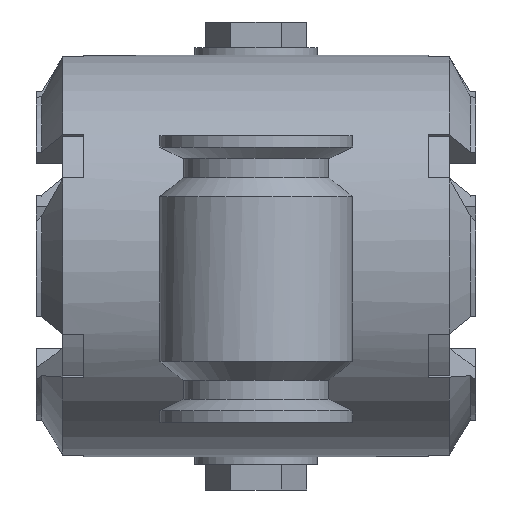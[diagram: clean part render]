
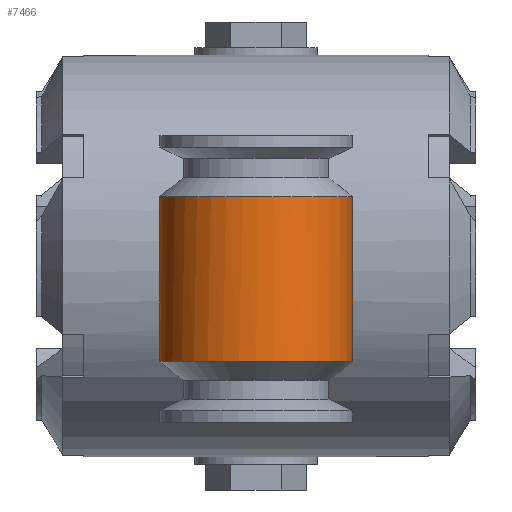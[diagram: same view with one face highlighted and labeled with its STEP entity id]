
A CAD part, front view. The second image highlights one B-rep face of the part: STEP entity #7466.
In plain terms, the highlighted cylindrical face has radius 25.25 mm (diameter 50.5 mm), a full revolution.
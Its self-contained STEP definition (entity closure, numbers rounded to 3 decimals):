
#737=CIRCLE('',#26787,25.25);
#738=CIRCLE('',#26788,25.25);
#739=CIRCLE('',#26790,25.25);
#5937=CYLINDRICAL_SURFACE('',#26791,25.25);
#6121=FACE_BOUND('',#10915,.T.);
#6122=FACE_BOUND('',#10916,.T.);
#7466=ADVANCED_FACE('',(#6121,#6122),#5937,.T.);
#10915=EDGE_LOOP('',(#18058));
#10916=EDGE_LOOP('',(#18059,#18060,#18061));
#18058=ORIENTED_EDGE('',*,*,#24138,.T.);
#18059=ORIENTED_EDGE('',*,*,#24137,.T.);
#18060=ORIENTED_EDGE('',*,*,#24139,.T.);
#18061=ORIENTED_EDGE('',*,*,#24135,.T.);
#20547=VERTEX_POINT('',#44036);
#20548=VERTEX_POINT('',#44037);
#20549=VERTEX_POINT('',#44042);
#20550=VERTEX_POINT('',#44046);
#24135=EDGE_CURVE('',#20547,#20548,#737,.T.);
#24137=EDGE_CURVE('',#20548,#20549,#738,.T.);
#24138=EDGE_CURVE('',#20550,#20550,#739,.T.);
#24139=EDGE_CURVE('',#20549,#20547,#25798,.T.);
#25798=B_SPLINE_CURVE_WITH_KNOTS('',3,(#44047,#44048,#44049,#44050,#44051,
#44052,#44053,#44054,#44055,#44056,#44057,#44058,#44059,#44060,#44061,#44062,
#44063,#44064,#44065,#44066,#44067,#44068,#44069,#44070,#44071,#44072,#44073,
#44074),.UNSPECIFIED.,.F.,.F.,(4,2,2,2,2,2,2,2,2,2,2,2,2,4),(0.,0.063,
0.125,0.25,0.375,0.438,0.5,0.563,0.625,0.75,0.813,0.875,0.938,1.),
 .UNSPECIFIED.);
#26787=AXIS2_PLACEMENT_3D('',#44035,#31557,#31558);
#26788=AXIS2_PLACEMENT_3D('',#44043,#31559,#31560);
#26790=AXIS2_PLACEMENT_3D('',#44045,#31563,#31564);
#26791=AXIS2_PLACEMENT_3D('',#44075,#31565,#31566);
#31557=DIRECTION('',(0.,0.,-1.));
#31558=DIRECTION('',(1.,0.,0.));
#31559=DIRECTION('',(0.,0.,-1.));
#31560=DIRECTION('',(1.,0.,0.));
#31563=DIRECTION('',(0.,0.,1.));
#31564=DIRECTION('',(-1.,0.,0.));
#31565=DIRECTION('',(0.,0.,-1.));
#31566=DIRECTION('',(1.,0.,0.));
#44035=CARTESIAN_POINT('',(0.016,-9.5,15.5));
#44036=CARTESIAN_POINT('',(2.001,15.672,15.5));
#44037=CARTESIAN_POINT('',(25.266,-9.5,15.5));
#44042=CARTESIAN_POINT('',(-1.995,15.67,15.5));
#44043=CARTESIAN_POINT('',(0.016,-9.5,15.5));
#44045=CARTESIAN_POINT('',(0.016,-9.5,-27.5));
#44046=CARTESIAN_POINT('',(-25.234,-9.5,-27.5));
#44047=CARTESIAN_POINT('',(-1.995,15.67,15.5));
#44048=CARTESIAN_POINT('',(-3.864,15.52,15.205));
#44049=CARTESIAN_POINT('',(-5.651,15.159,14.488));
#44050=CARTESIAN_POINT('',(-8.741,14.238,12.458));
#44051=CARTESIAN_POINT('',(-10.056,13.685,11.155));
#44052=CARTESIAN_POINT('',(-13.238,12.121,6.617));
#44053=CARTESIAN_POINT('',(-14.276,11.318,2.831));
#44054=CARTESIAN_POINT('',(-13.847,11.606,-4.8));
#44055=CARTESIAN_POINT('',(-12.376,12.661,-8.435));
#44056=CARTESIAN_POINT('',(-8.703,14.235,-12.479));
#44057=CARTESIAN_POINT('',(-7.208,14.756,-13.617));
#44058=CARTESIAN_POINT('',(-3.842,15.513,-15.203));
#44059=CARTESIAN_POINT('',(-1.946,15.746,-15.65));
#44060=CARTESIAN_POINT('',(1.862,15.754,-15.664));
#44061=CARTESIAN_POINT('',(3.774,15.529,-15.227));
#44062=CARTESIAN_POINT('',(7.171,14.777,-13.647));
#44063=CARTESIAN_POINT('',(8.67,14.258,-12.513));
#44064=CARTESIAN_POINT('',(12.372,12.683,-8.461));
#44065=CARTESIAN_POINT('',(13.843,11.629,-4.817));
#44066=CARTESIAN_POINT('',(14.177,11.406,0.866));
#44067=CARTESIAN_POINT('',(13.976,11.548,2.793));
#44068=CARTESIAN_POINT('',(12.976,12.178,6.426));
#44069=CARTESIAN_POINT('',(12.19,12.653,8.118));
#44070=CARTESIAN_POINT('',(10.068,13.693,11.148));
#44071=CARTESIAN_POINT('',(8.778,14.237,12.434));
#44072=CARTESIAN_POINT('',(5.661,15.164,14.489));
#44073=CARTESIAN_POINT('',(3.886,15.523,15.202));
#44074=CARTESIAN_POINT('',(2.001,15.672,15.5));
#44075=CARTESIAN_POINT('',(0.016,-9.5,50.5));
